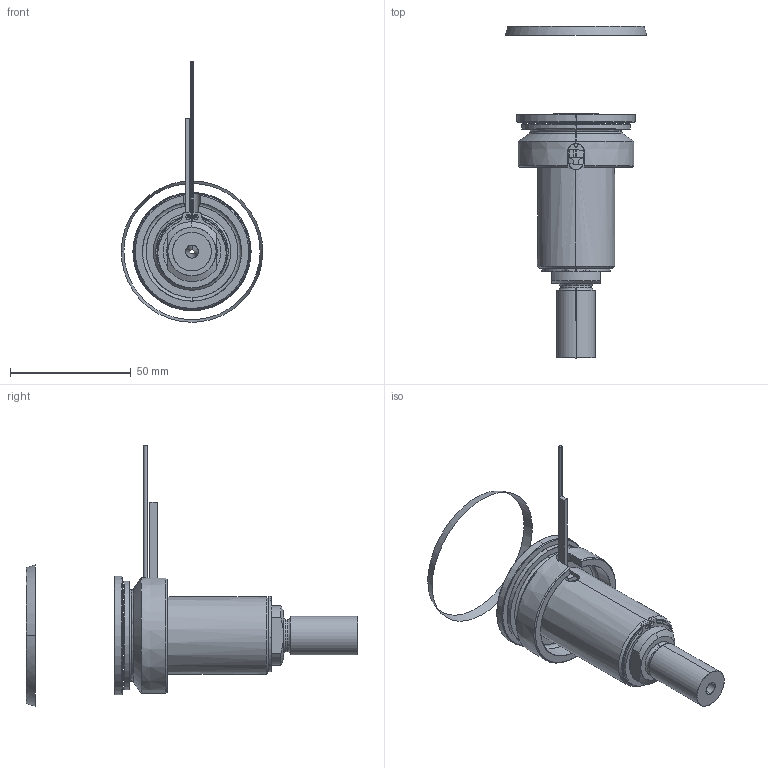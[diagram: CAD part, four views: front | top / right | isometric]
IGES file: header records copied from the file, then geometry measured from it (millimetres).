
Start section: SolidWorks IGES file using analytic representation for surfaces
Global section: file name: C:\Documents and Settings\ws-20\Desktop\TEMPORANEA\UGBE5001-S-A-P-3 [Ød-2.0 P-25 ØC-13].IGS; native system: SolidWorks 2012; preprocessor: SolidWorks 2012; author: ws-20; date: 120306.161532; units: millimetre
Bounding box: 58.57 x 137.44 x 107.94 mm (x, y, z)
Surface area: 33048.8 mm2 (no closed solid volume)
Topology: 0 solids, 0 shells, 114 faces, 2188 edges, 2188 vertices
Faces by surface type: revolution 69, bspline 45
